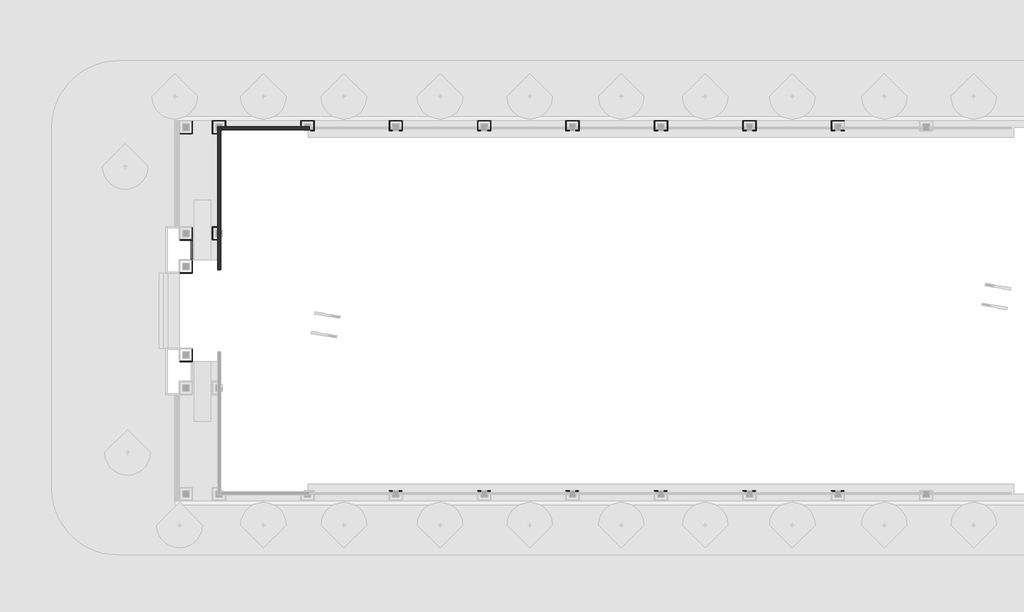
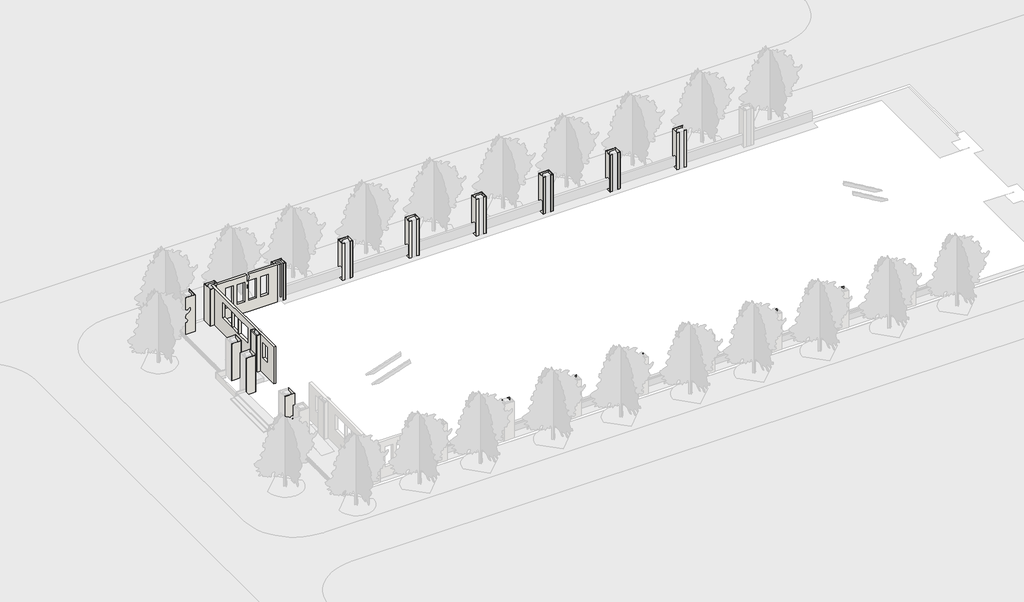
# One storey, part 2 of 5: 63 walls.
"""IFC4 building model written with IfcOpenShell, lengths in millimetres."""

from ifc_helpers import new_model, si_unit, frame, origin, place, context, project, spatial, polyline, outline, extrude, faceted_brep, element, save

model = new_model("IFC4")

# Units and contexts
model_context = context("Model", 3, world=origin())
ifc_project = project(units=[si_unit("LENGTHUNIT", "METRE", prefix="MILLI")], contexts=[model_context])

# Site, building, storey
site = spatial("IfcSite", under=ifc_project)
building = spatial("IfcBuilding", under=site)
storey = spatial("IfcBuildingStorey", under=building, Name="室外", Elevation=-450.0)

# Walls
placement = place(None, origin())
element("IfcWall", 1, ObjectType="教学楼 – 文化石外墙 – 200mm", at=placement, inside=storey, context=model_context, shape_type="Brep", body=[
    faceted_brep([(3167.0000002, 20300.0, -450.0), (3167.0000002, 23300.0, -450.0), (3167.0000002, 23900.0, -450.0), (3167.0000002, 32900.0, -450.0), (3167.0000002, 32982.6954639, -450.0), (3167.0000002, 33252.6954639, -450.0), (3167.0000002, 33252.6954639, 4200.0), (3167.0000002, 32982.6954639, 4200.0), (3167.0000002, 32900.0, 4200.0), (3167.0000002, 26716.2230983, 4200.0), (3167.0000002, 26482.2230983, 4200.0), (3167.0000002, 23900.0, 4200.0), (3167.0000002, 23516.723093, 4200.0), (3167.0000002, 23282.723093, 4200.0), (3167.0000002, 20900.0, 4200.0), (3167.0000002, 20300.0, 4200.0), (3167.0000002, 20300.0, 0.0), (3167.0000002, 27700.0, 1500.0), (3167.0000002, 27700.0, 3400.0), (3167.0000002, 28900.0, 3400.0), (3167.0000002, 28900.0, 1500.0), (3167.0000002, 21649.6954632, 1500.0), (3167.0000002, 21649.6954632, 3400.0), (3167.0000002, 22549.6954632, 3400.0), (3167.0000002, 22549.6954632, 1500.0), (3167.0000002, 25700.0, 1500.0), (3167.0000002, 25700.0, 3400.0), (3167.0000002, 27500.0, 3400.0), (3167.0000002, 27500.0, 1500.0), (3167.0000002, 30900.0, 1500.0), (3167.0000002, 29100.0, 1500.0), (3167.0000002, 29100.0, 3400.0), (3167.0000002, 30900.0, 3400.0), (2897.0000002, 20300.0, -450.0), (2897.0000002, 20300.0, 0.0), (2897.0000002, 20300.0, 4200.0), (2897.0000002, 20900.0, 4200.0), (2897.0000002, 23300.0, 4200.0), (2897.0000002, 23900.0, 4200.0), (2897.0000002, 32900.0, 4200.0), (2897.0000002, 33252.6954639, 4200.0), (2897.0000002, 33252.6954639, -450.0), (2897.0000002, 32900.0, -450.0), (2897.0000002, 23900.0, -450.0), (2897.0000002, 23300.0, -450.0), (2897.0000002, 27700.0, 1500.0), (2897.0000002, 28900.0, 1500.0), (2897.0000002, 28900.0, 3400.0), (2897.0000002, 27700.0, 3400.0), (2897.0000002, 21649.6954632, 1500.0), (2897.0000002, 22549.6954632, 1500.0), (2897.0000002, 22549.6954632, 3400.0), (2897.0000002, 21649.6954632, 3400.0), (2897.0000002, 25700.0, 1500.0), (2897.0000002, 27500.0, 1500.0), (2897.0000002, 27500.0, 3400.0), (2897.0000002, 25700.0, 3400.0), (2897.0000002, 30900.0, 1500.0), (2897.0000002, 30900.0, 3400.0), (2897.0000002, 29100.0, 3400.0), (2897.0000002, 29100.0, 1500.0)], [[[0, 1, 2, 3, 4, 5, 6, 7, 8, 9, 10, 11, 12, 13, 14, 15, 16], [17, 18, 19, 20], [21, 22, 23, 24], [25, 26, 27, 28], [29, 30, 31, 32]], [[33, 34, 35, 36, 37, 38, 39, 40, 41, 42, 43, 44], [45, 46, 47, 48], [49, 50, 51, 52], [53, 54, 55, 56], [57, 58, 59, 60]], [[5, 4, 3, 2, 1, 0, 33, 44, 43, 42, 41]], [[15, 14, 13, 12, 11, 10, 9, 8, 7, 6, 40, 39, 38, 37, 36, 35]], [[0, 16, 15, 35, 34, 33]], [[6, 5, 41, 40]], [[18, 17, 45, 48]], [[19, 18, 48, 47]], [[20, 19, 47, 46]], [[17, 20, 46, 45]], [[22, 21, 49, 52]], [[23, 22, 52, 51]], [[24, 23, 51, 50]], [[21, 24, 50, 49]], [[26, 25, 53, 56]], [[27, 26, 56, 55]], [[28, 27, 55, 54]], [[25, 28, 54, 53]], [[58, 57, 29, 32]], [[59, 58, 32, 31]], [[60, 59, 31, 30]], [[57, 60, 30, 29]]]),
])
element("IfcWall", 2, ObjectType="教学楼 – 文化石外墙 – 200mm", at=placement, inside=storey, context=model_context, shape_type="Brep", body=[
    faceted_brep([(3167.0000002, 32982.6954639, -450.0), (3300.0, 32982.6954639, -450.0), (10700.0, 32982.6954639, -450.0), (11153.0, 32982.6954639, -450.0), (11153.0, 32982.6954639, 0.0), (11153.0, 32982.6954639, 4200.0), (10883.0, 32982.6954639, 4200.0), (10700.0, 32982.6954639, 4200.0), (7017.0000003, 32982.6954639, 4200.0), (6783.0000003, 32982.6954639, 4200.0), (3300.0, 32982.6954639, 4200.0), (3167.0000002, 32982.6954639, 4200.0), (8660.0000003, 32982.6954639, 900.0), (8660.0000003, 32982.6954639, 3400.0), (9560.0000003, 32982.6954639, 3400.0), (9560.0000003, 32982.6954639, 900.0), (7259.9999978, 32982.6954639, 900.0), (7259.9999978, 32982.6954639, 3400.0), (8159.9999978, 32982.6954639, 3400.0), (8159.9999978, 32982.6954639, 900.0), (5860.0000003, 32982.6954639, 900.0), (5860.0000003, 32982.6954639, 3400.0), (6760.0000003, 32982.6954639, 3400.0), (6760.0000003, 32982.6954639, 900.0), (4460.0000003, 32982.6954639, 900.0), (4460.0000003, 32982.6954639, 3400.0), (5360.0000003, 32982.6954639, 3400.0), (5360.0000003, 32982.6954639, 900.0), (3167.0000002, 33252.6954639, -450.0), (3167.0000002, 33252.6954639, 4200.0), (3300.0, 33252.6954639, 4200.0), (10700.0, 33252.6954639, 4200.0), (11153.0, 33252.6954639, 4200.0), (11153.0, 33252.6954639, 0.0), (11153.0, 33252.6954639, -450.0), (10700.0, 33252.6954639, -450.0), (3300.0, 33252.6954639, -450.0), (8660.0000003, 33252.6954639, 900.0), (9560.0000003, 33252.6954639, 900.0), (9560.0000003, 33252.6954639, 3400.0), (8660.0000003, 33252.6954639, 3400.0), (7259.9999978, 33252.6954639, 900.0), (8159.9999978, 33252.6954639, 900.0), (8159.9999978, 33252.6954639, 3400.0), (7259.9999978, 33252.6954639, 3400.0), (5860.0000003, 33252.6954639, 900.0), (6760.0000003, 33252.6954639, 900.0), (6760.0000003, 33252.6954639, 3400.0), (5860.0000003, 33252.6954639, 3400.0), (4460.0000003, 33252.6954639, 900.0), (5360.0000003, 33252.6954639, 900.0), (5360.0000003, 33252.6954639, 3400.0), (4460.0000003, 33252.6954639, 3400.0)], [[[0, 1, 2, 3, 4, 5, 6, 7, 8, 9, 10, 11], [12, 13, 14, 15], [16, 17, 18, 19], [20, 21, 22, 23], [24, 25, 26, 27]], [[28, 29, 30, 31, 32, 33, 34, 35, 36], [37, 38, 39, 40], [41, 42, 43, 44], [45, 46, 47, 48], [49, 50, 51, 52]], [[3, 2, 1, 0, 28, 36, 35, 34]], [[11, 10, 9, 8, 7, 6, 5, 32, 31, 30, 29]], [[0, 11, 29, 28]], [[5, 4, 3, 34, 33, 32]], [[13, 12, 37, 40]], [[14, 13, 40, 39]], [[15, 14, 39, 38]], [[12, 15, 38, 37]], [[17, 16, 41, 44]], [[18, 17, 44, 43]], [[19, 18, 43, 42]], [[16, 19, 42, 41]], [[21, 20, 45, 48]], [[22, 21, 48, 47]], [[23, 22, 47, 46]], [[20, 23, 46, 45]], [[25, 24, 49, 52]], [[26, 25, 52, 51]], [[27, 26, 51, 50]], [[24, 27, 50, 49]]]),
])
element("IfcWall", 3, ObjectType="教学楼 – 干挂石材 – 30mm", at=placement, inside=storey, context=model_context, shape_type="Brep", body=[
    faceted_brep([(600.0, 32629.3961574, -450.0), (570.0, 32629.3961574, -450.0), (-570.0000001, 32629.3961574, -450.0), (-570.0000001, 32629.3961574, 4200.0), (570.0, 32629.3961574, 4200.0), (600.0, 32629.3961574, 4200.0), (600.0, 32599.3961574, -450.0), (600.0, 32599.3961574, 4200.0), (-570.0000001, 32599.3961574, 4200.0), (-570.0000001, 32599.3961574, -450.0)], [[[0, 1, 2, 3, 4, 5]], [[6, 7, 8, 9]], [[2, 1, 0, 6, 9]], [[5, 4, 3, 8, 7]], [[0, 5, 7, 6]], [[3, 2, 9, 8]]]),
])
element("IfcWall", 4, ObjectType="教学楼 – 干挂石材 – 30mm", at=placement, inside=storey, context=model_context, shape_type="Brep", body=[
    faceted_brep([(570.0, 33799.3961574, -450.0), (570.0, 33769.3961574, -450.0), (570.0, 32629.3961574, -450.0), (570.0, 32629.3961574, 4200.0), (570.0, 33769.3961574, 4200.0), (570.0, 33799.3961574, 4200.0), (600.0, 33799.3961574, -450.0), (600.0, 33799.3961574, 4200.0), (600.0, 32629.3961574, 4200.0), (600.0, 32629.3961574, -450.0)], [[[0, 1, 2, 3, 4, 5]], [[6, 7, 8, 9]], [[2, 1, 0, 6, 9]], [[5, 4, 3, 8, 7]], [[0, 5, 7, 6]], [[3, 2, 9, 8]]]),
])
element("IfcWall", 5, ObjectType="教学楼 – 干挂石材 – 30mm", at=placement, inside=storey, context=model_context, shape_type="Brep", body=[
    faceted_brep([(2897.0000002, 32629.6954638, -450.0), (2430.0000001, 32629.6954638, -450.0), (2400.0000001, 32629.6954638, -450.0), (2400.0000001, 32629.6954638, 4200.0), (2430.0000001, 32629.6954638, 4200.0), (2897.0000002, 32629.6954638, 4200.0), (2897.0000002, 32599.6954638, -450.0), (2897.0000002, 32599.6954638, 4200.0), (2400.0000001, 32599.6954638, 4200.0), (2400.0000001, 32599.6954638, -450.0)], [[[0, 1, 2, 3, 4, 5]], [[6, 7, 8, 9]], [[2, 1, 0, 6, 9]], [[5, 4, 3, 8, 7]], [[0, 5, 7, 6]], [[3, 2, 9, 8]]]),
])
element("IfcWall", 6, ObjectType="教学楼 – 干挂石材 – 30mm", at=placement, inside=storey, context=model_context, shape_type="Brep", body=[
    faceted_brep([(2430.0000001, 32629.6954638, -450.0), (2430.0000001, 33769.6954638, -450.0), (2430.0000001, 33799.6954638, -450.0), (2430.0000001, 33799.6954638, 4200.0), (2430.0000001, 33769.6954638, 4200.0), (2430.0000001, 32629.6954638, 4200.0), (2400.0000001, 32629.6954638, -450.0), (2400.0000001, 32629.6954638, 4200.0), (2400.0000001, 33799.6954638, 4200.0), (2400.0000001, 33799.6954638, -450.0)], [[[0, 1, 2, 3, 4, 5]], [[6, 7, 8, 9]], [[2, 1, 0, 6, 9]], [[5, 4, 3, 8, 7]], [[0, 5, 7, 6]], [[3, 2, 9, 8]]]),
])
element("IfcWall", 7, ObjectType="教学楼 – 干挂石材 – 30mm", at=placement, inside=storey, context=model_context, shape_type="Brep", body=[
    faceted_brep([(2430.0000001, 33769.6954638, -450.0), (3570.0000001, 33769.6954638, -450.0), (3600.0000001, 33769.6954638, -450.0), (3600.0000001, 33769.6954638, 4200.0), (3570.0000001, 33769.6954638, 4200.0), (2430.0000001, 33769.6954638, 4200.0), (2430.0000001, 33799.6954638, -450.0), (2430.0000001, 33799.6954638, 4200.0), (3600.0000001, 33799.6954638, 4200.0), (3600.0000001, 33799.6954638, -450.0)], [[[0, 1, 2, 3, 4, 5]], [[6, 7, 8, 9]], [[2, 1, 0, 6, 9]], [[5, 4, 3, 8, 7]], [[0, 5, 7, 6]], [[3, 2, 9, 8]]]),
])
element("IfcWall", 8, ObjectType="教学楼 – 干挂石材 – 30mm", at=placement, inside=storey, context=model_context, shape_type="SweptSolid", body=[
    extrude(outline(polyline([(3570.0000001, 33252.6954639), (3570.0000001, 33769.6954638), (3600.0000001, 33769.6954638), (3600.0000001, 33252.6954639), (3570.0000001, 33252.6954639)])), frame((0.0, 0.0, -450.0), z_axis=(0.0, 0.0, 1.0), x_axis=(1.0, 0.0, 0.0)), (0.0, 0.0, 1.0), 4650.0),
])
element("IfcWall", 9, ObjectType="教学楼 – 干挂石材 – 30mm", at=placement, inside=storey, context=model_context, shape_type="Brep", body=[
    faceted_brep([(600.0, 23029.3961574, 4200.0), (600.0, 23029.3961574, -450.0), (570.0, 23029.3961574, -450.0), (-570.0000001, 23029.3961574, -450.0), (-570.0000001, 23029.3961574, 4200.0), (570.0, 23029.3961574, 4200.0), (600.0, 22999.3961574, -450.0), (600.0, 22999.3961574, 300.0), (600.0, 22999.3961574, 4200.0), (-570.0000001, 22999.3961574, 4200.0), (-570.0000001, 22999.3961574, -450.0), (500.0, 22999.3961574, -450.0)], [[[0, 1, 2, 3, 4, 5]], [[6, 7, 8, 9, 10, 11]], [[3, 2, 1, 6, 11, 10]], [[0, 5, 4, 9, 8]], [[4, 3, 10, 9]], [[0, 8, 7, 6, 1]]]),
])
element("IfcWall", 10, ObjectType="教学楼 – 干挂石材 – 30mm", at=placement, inside=storey, context=model_context, shape_type="Brep", body=[
    faceted_brep([(570.0, 24199.3961574, -450.0), (570.0, 24169.3961574, -450.0), (570.0, 23029.3961574, -450.0), (570.0, 23029.3961574, 4200.0), (570.0, 24169.3961574, 4200.0), (570.0, 24199.3961574, 4200.0), (600.0, 24199.3961574, -450.0), (600.0, 24199.3961574, 4200.0), (600.0, 23029.3961574, 4200.0), (600.0, 23029.3961574, -450.0)], [[[0, 1, 2, 3, 4, 5]], [[6, 7, 8, 9]], [[2, 1, 0, 6, 9]], [[5, 4, 3, 8, 7]], [[0, 5, 7, 6]], [[2, 9, 8, 3]]]),
])
element("IfcWall", 11, ObjectType="教学楼 – 干挂石材 – 30mm", at=placement, inside=storey, context=model_context, shape_type="Brep", body=[
    faceted_brep([(10430.0000009, 33252.6954639, -450.0), (10430.0000009, 33769.6402082, -450.0), (10430.0000009, 33799.6402082, -450.0), (10430.0000009, 33799.6402082, 4200.0), (10430.0000009, 33769.6402082, 4200.0), (10430.0000009, 33252.6954639, 4200.0), (10400.0000009, 33252.6954639, -450.0), (10400.0000009, 33252.6954639, 4200.0), (10400.0000009, 33799.6402082, 4200.0), (10400.0000009, 33799.6402082, -450.0)], [[[0, 1, 2, 3, 4, 5]], [[6, 7, 8, 9]], [[2, 1, 0, 6, 9]], [[5, 4, 3, 8, 7]], [[0, 5, 7, 6]], [[3, 2, 9, 8]]]),
])
element("IfcWall", 12, ObjectType="教学楼 – 干挂石材 – 30mm", at=placement, inside=storey, context=model_context, shape_type="Brep", body=[
    faceted_brep([(10430.0000009, 33769.6402082, -450.0), (11569.9999999, 33769.6402082, -450.0), (11599.9999999, 33769.6402082, -450.0), (11599.9999999, 33769.6402082, 4200.0), (11569.9999999, 33769.6402082, 4200.0), (10430.0000009, 33769.6402082, 4200.0), (10430.0000009, 33799.6402082, -450.0), (10430.0000009, 33799.6402082, 4200.0), (11599.9999999, 33799.6402082, 4200.0), (11599.9999999, 33799.6402082, -450.0)], [[[0, 1, 2, 3, 4, 5]], [[6, 7, 8, 9]], [[2, 1, 0, 6, 9]], [[5, 4, 3, 8, 7]], [[0, 5, 7, 6]], [[3, 2, 9, 8]]]),
])
element("IfcWall", 13, ObjectType="教学楼 – 干挂石材 – 30mm", at=placement, inside=storey, context=model_context, shape_type="Brep", body=[
    faceted_brep([(11569.9999999, 33769.6402082, -450.0), (11569.9999999, 32929.640208, -450.0), (11569.9999999, 32899.640208, -450.0), (11569.9999999, 32899.640208, 4200.0), (11569.9999999, 32929.640208, 4200.0), (11569.9999999, 33769.6402082, 4200.0), (11599.9999999, 33769.6402082, -450.0), (11599.9999999, 33769.6402082, 4200.0), (11599.9999999, 32899.640208, 4200.0), (11599.9999999, 32899.640208, -450.0)], [[[0, 1, 2, 3, 4, 5]], [[6, 7, 8, 9]], [[2, 1, 0, 6, 9]], [[5, 4, 3, 8, 7]], [[0, 5, 7, 6]], [[3, 2, 9, 8]]]),
])
element("IfcWall", 14, ObjectType="教学楼 – 干挂石材 – 30mm", at=placement, inside=storey, context=model_context, shape_type="Brep", body=[
    faceted_brep([(11569.9999999, 32929.640208, -450.0), (11300.0, 32929.640208, -450.0), (11300.0, 32929.640208, 4200.0), (11569.9999999, 32929.640208, 4200.0), (11569.9999999, 32899.640208, -450.0), (11569.9999999, 32899.640208, 4200.0), (11300.0, 32899.640208, 4200.0), (11300.0, 32899.640208, -450.0), (11300.0, 32900.0, -450.0), (11300.0, 32900.0, 4200.0)], [[[0, 1, 2, 3]], [[4, 5, 6, 7]], [[1, 0, 4, 7, 8]], [[2, 1, 8, 7, 6, 9]], [[3, 2, 9, 6, 5]], [[0, 3, 5, 4]]]),
])
element("IfcWall", 15, ObjectType="教学楼 – 干挂石材 – 30mm", at=placement, inside=storey, context=model_context, shape_type="Brep", body=[
    faceted_brep([(18700.0, 32929.640208, -450.0), (18430.0000009, 32929.640208, -450.0), (18400.0000009, 32929.640208, -450.0), (18400.0000009, 32929.640208, 4200.0), (18430.0000009, 32929.640208, 4200.0), (18700.0, 32929.640208, 4200.0), (18700.0, 32899.640208, -450.0), (18700.0, 32899.640208, 4200.0), (18400.0000009, 32899.640208, 4200.0), (18400.0000009, 32899.640208, -450.0), (18700.0, 32900.0, -450.0), (18700.0, 32900.0, 4200.0)], [[[0, 1, 2, 3, 4, 5]], [[6, 7, 8, 9]], [[2, 1, 0, 10, 6, 9]], [[5, 4, 3, 8, 7, 11]], [[0, 5, 11, 7, 6, 10]], [[3, 2, 9, 8]]]),
])
element("IfcWall", 16, ObjectType="教学楼 – 干挂石材 – 30mm", at=placement, inside=storey, context=model_context, shape_type="Brep", body=[
    faceted_brep([(18430.0000009, 32929.640208, -450.0), (18430.0000009, 33769.6402082, -450.0), (18430.0000009, 33799.6402082, -450.0), (18430.0000009, 33799.6402082, 4200.0), (18430.0000009, 33769.6402082, 4200.0), (18430.0000009, 32929.640208, 4200.0), (18400.0000009, 32929.640208, -450.0), (18400.0000009, 32929.640208, 4200.0), (18400.0000009, 33799.6402082, 4200.0), (18400.0000009, 33799.6402082, -450.0)], [[[0, 1, 2, 3, 4, 5]], [[6, 7, 8, 9]], [[2, 1, 0, 6, 9]], [[5, 4, 3, 8, 7]], [[0, 5, 7, 6]], [[3, 2, 9, 8]]]),
])
element("IfcWall", 17, ObjectType="教学楼 – 干挂石材 – 30mm", at=placement, inside=storey, context=model_context, shape_type="Brep", body=[
    faceted_brep([(18430.0000009, 33769.6402082, -450.0), (19569.9999999, 33769.6402082, -450.0), (19599.9999999, 33769.6402082, -450.0), (19599.9999999, 33769.6402082, 4200.0), (19569.9999999, 33769.6402082, 4200.0), (18430.0000009, 33769.6402082, 4200.0), (18430.0000009, 33799.6402082, -450.0), (18430.0000009, 33799.6402082, 4200.0), (19599.9999999, 33799.6402082, 4200.0), (19599.9999999, 33799.6402082, -450.0)], [[[0, 1, 2, 3, 4, 5]], [[6, 7, 8, 9]], [[2, 1, 0, 6, 9]], [[5, 4, 3, 8, 7]], [[0, 5, 7, 6]], [[3, 2, 9, 8]]]),
])
element("IfcWall", 18, ObjectType="教学楼 – 干挂石材 – 30mm", at=placement, inside=storey, context=model_context, shape_type="Brep", body=[
    faceted_brep([(19569.9999999, 33769.6402082, -450.0), (19569.9999999, 32929.640208, -450.0), (19569.9999999, 32899.640208, -450.0), (19569.9999999, 32899.640208, 4200.0), (19569.9999999, 32929.640208, 4200.0), (19569.9999999, 33769.6402082, 4200.0), (19599.9999999, 33769.6402082, -450.0), (19599.9999999, 33769.6402082, 4200.0), (19599.9999999, 32899.640208, 4200.0), (19599.9999999, 32899.640208, -450.0)], [[[0, 1, 2, 3, 4, 5]], [[6, 7, 8, 9]], [[2, 1, 0, 6, 9]], [[5, 4, 3, 8, 7]], [[0, 5, 7, 6]], [[3, 2, 9, 8]]]),
])
element("IfcWall", 19, ObjectType="教学楼 – 干挂石材 – 30mm", at=placement, inside=storey, context=model_context, shape_type="Brep", body=[
    faceted_brep([(19569.9999999, 32929.640208, -450.0), (19300.0, 32929.640208, -450.0), (19300.0, 32929.640208, 4200.0), (19569.9999999, 32929.640208, 4200.0), (19569.9999999, 32899.640208, -450.0), (19569.9999999, 32899.640208, 4200.0), (19300.0, 32899.640208, 4200.0), (19300.0, 32899.640208, -450.0), (19300.0, 32900.0, -450.0), (19300.0, 32900.0, 4200.0)], [[[0, 1, 2, 3]], [[4, 5, 6, 7]], [[1, 0, 4, 7, 8]], [[2, 1, 8, 7, 6, 9]], [[3, 2, 9, 6, 5]], [[0, 3, 5, 4]]]),
])
element("IfcWall", 20, ObjectType="教学楼 – 干挂石材 – 30mm", at=placement, inside=storey, context=model_context, shape_type="Brep", body=[
    faceted_brep([(2897.0000005, 24199.6954638, -450.0), (2399.9999999, 24199.6954638, -450.0), (2399.9999999, 24199.6954638, 4200.0), (2897.0000005, 24199.6954638, 4200.0), (2897.0000005, 24169.6954638, -450.0), (2897.0000005, 24169.6954638, 4200.0), (2429.9999999, 24169.6954638, 4200.0), (2399.9999999, 24169.6954638, 4200.0), (2399.9999999, 24169.6954638, -450.0), (2429.9999999, 24169.6954638, -450.0)], [[[0, 1, 2, 3]], [[4, 5, 6, 7, 8, 9]], [[1, 0, 4, 9, 8]], [[3, 2, 7, 6, 5]], [[0, 3, 5, 4]], [[2, 1, 8, 7]]]),
])
element("IfcWall", 21, ObjectType="教学楼 – 干挂石材 – 30mm", at=placement, inside=storey, context=model_context, shape_type="Brep", body=[
    faceted_brep([(2399.9999999, 24169.6954638, -450.0), (2399.9999999, 22999.6954638, -450.0), (2399.9999999, 22999.6954638, 4200.0), (2399.9999999, 24169.6954638, 4200.0), (2429.9999999, 24169.6954638, -450.0), (2429.9999999, 24169.6954638, 4200.0), (2429.9999999, 23029.6954638, 4200.0), (2429.9999999, 22999.6954638, 4200.0), (2429.9999999, 22999.6954638, -450.0), (2429.9999999, 23029.6954638, -450.0)], [[[0, 1, 2, 3]], [[4, 5, 6, 7, 8, 9]], [[1, 0, 4, 9, 8]], [[3, 2, 7, 6, 5]], [[0, 3, 5, 4]], [[2, 1, 8, 7]]]),
])
element("IfcWall", 22, ObjectType="教学楼 – 干挂石材 – 30mm", at=placement, inside=storey, context=model_context, shape_type="SweptSolid", body=[
    extrude(outline(polyline([(2897.0000005, 22999.6954638), (2429.9999999, 22999.6954638), (2429.9999999, 23029.6954638), (2897.0000005, 23029.6954638), (2897.0000005, 22999.6954638)])), frame((0.0, 0.0, -450.0), z_axis=(0.0, 0.0, 1.0), x_axis=(1.0, 0.0, 0.0)), (0.0, 0.0, 1.0), 4650.0),
])
element("IfcWall", 23, ObjectType="教学楼 – 干挂石材 – 30mm", at=placement, inside=storey, context=model_context, shape_type="Brep", body=[
    faceted_brep([(600.0, 20029.7006935, -450.0), (570.0, 20029.7006935, -450.0), (-570.0000001, 20029.7006935, -450.0), (-570.0000001, 20029.7006935, 4200.0), (570.0, 20029.7006935, 4200.0), (600.0, 20029.7006935, 4200.0), (600.0, 19999.7006935, -450.0), (600.0, 19999.7006935, 4200.0), (-570.0000001, 19999.7006935, 4200.0), (-570.0000001, 19999.7006935, -450.0)], [[[0, 1, 2, 3, 4, 5]], [[6, 7, 8, 9]], [[2, 1, 0, 6, 9]], [[5, 4, 3, 8, 7]], [[0, 5, 7, 6]], [[2, 9, 8, 3]]]),
])
element("IfcWall", 24, ObjectType="教学楼 – 干挂石材 – 30mm", at=placement, inside=storey, context=model_context, shape_type="Brep", body=[
    faceted_brep([(570.0, 21199.7006935, 4200.0), (570.0, 21199.7006935, -450.0), (570.0, 21169.7006935, -450.0), (570.0, 20029.7006935, -450.0), (570.0, 20029.7006935, 4200.0), (570.0, 21169.7006935, 4200.0), (600.0, 21199.7006935, -450.0), (600.0, 21199.7006935, 300.0), (600.0, 21199.7006935, 4200.0), (600.0, 20029.7006935, 4200.0), (600.0, 20029.7006935, -450.0)], [[[0, 1, 2, 3, 4, 5]], [[6, 7, 8, 9, 10]], [[3, 2, 1, 6, 10]], [[0, 5, 4, 9, 8]], [[4, 3, 10, 9]], [[0, 8, 7, 6, 1]]]),
])
element("IfcWall", 25, ObjectType="教学楼 – 干挂石材 – 30mm", at=placement, inside=storey, context=model_context, shape_type="Brep", body=[
    faceted_brep([(600.0, 12029.3961574, 4200.0), (600.0, 12029.3961574, -450.0), (570.0, 12029.3961574, -450.0), (-570.0000001, 12029.3961574, -450.0), (-570.0000001, 12029.3961574, 4200.0), (570.0, 12029.3961574, 4200.0), (600.0, 11999.3961574, -450.0), (600.0, 11999.3961574, 300.0), (600.0, 11999.3961574, 4200.0), (-570.0000001, 11999.3961574, 4200.0), (-570.0000001, 11999.3961574, -450.0), (500.0, 11999.3961574, -450.0)], [[[0, 1, 2, 3, 4, 5]], [[6, 7, 8, 9, 10, 11]], [[3, 2, 1, 6, 11, 10]], [[0, 5, 4, 9, 8]], [[4, 3, 10, 9]], [[0, 8, 7, 6, 1]]]),
])
element("IfcWall", 26, ObjectType="教学楼 – 干挂石材 – 30mm", at=placement, inside=storey, context=model_context, shape_type="Brep", body=[
    faceted_brep([(570.0, 13199.3961574, -450.0), (570.0, 13169.3961574, -450.0), (570.0, 12029.3961574, -450.0), (570.0, 12029.3961574, 4200.0), (570.0, 13169.3961574, 4200.0), (570.0, 13199.3961574, 4200.0), (600.0, 13199.3961574, -450.0), (600.0, 13199.3961574, 4200.0), (600.0, 12029.3961574, 4200.0), (600.0, 12029.3961574, -450.0)], [[[0, 1, 2, 3, 4, 5]], [[6, 7, 8, 9]], [[2, 1, 0, 6, 9]], [[5, 4, 3, 8, 7]], [[0, 5, 7, 6]], [[2, 9, 8, 3]]]),
])
element("IfcWall", 27, ObjectType="教学楼 – 干挂石材 – 30mm", at=placement, inside=storey, context=model_context, shape_type="Brep", body=[
    faceted_brep([(26700.0, 32929.640208, -450.0), (26430.0000009, 32929.640208, -450.0), (26400.0000009, 32929.640208, -450.0), (26400.0000009, 32929.640208, 4200.0), (26430.0000009, 32929.640208, 4200.0), (26700.0, 32929.640208, 4200.0), (26700.0, 32899.640208, -450.0), (26700.0, 32899.640208, 4200.0), (26400.0000009, 32899.640208, 4200.0), (26400.0000009, 32899.640208, -450.0), (26700.0, 32900.0, -450.0), (26700.0, 32900.0, 4200.0)], [[[0, 1, 2, 3, 4, 5]], [[6, 7, 8, 9]], [[2, 1, 0, 10, 6, 9]], [[5, 4, 3, 8, 7, 11]], [[0, 5, 11, 7, 6, 10]], [[3, 2, 9, 8]]]),
])
element("IfcWall", 28, ObjectType="教学楼 – 干挂石材 – 30mm", at=placement, inside=storey, context=model_context, shape_type="Brep", body=[
    faceted_brep([(26430.0000009, 32929.640208, -450.0), (26430.0000009, 33769.6402082, -450.0), (26430.0000009, 33799.6402082, -450.0), (26430.0000009, 33799.6402082, 4200.0), (26430.0000009, 33769.6402082, 4200.0), (26430.0000009, 32929.640208, 4200.0), (26400.0000009, 32929.640208, -450.0), (26400.0000009, 32929.640208, 4200.0), (26400.0000009, 33799.6402082, 4200.0), (26400.0000009, 33799.6402082, -450.0)], [[[0, 1, 2, 3, 4, 5]], [[6, 7, 8, 9]], [[2, 1, 0, 6, 9]], [[5, 4, 3, 8, 7]], [[0, 5, 7, 6]], [[3, 2, 9, 8]]]),
])
element("IfcWall", 29, ObjectType="教学楼 – 干挂石材 – 30mm", at=placement, inside=storey, context=model_context, shape_type="Brep", body=[
    faceted_brep([(26430.0000009, 33769.6402082, -450.0), (27569.9999999, 33769.6402082, -450.0), (27599.9999999, 33769.6402082, -450.0), (27599.9999999, 33769.6402082, 4200.0), (27569.9999999, 33769.6402082, 4200.0), (26430.0000009, 33769.6402082, 4200.0), (26430.0000009, 33799.6402082, -450.0), (26430.0000009, 33799.6402082, 4200.0), (27599.9999999, 33799.6402082, 4200.0), (27599.9999999, 33799.6402082, -450.0)], [[[0, 1, 2, 3, 4, 5]], [[6, 7, 8, 9]], [[2, 1, 0, 6, 9]], [[5, 4, 3, 8, 7]], [[0, 5, 7, 6]], [[3, 2, 9, 8]]]),
])
element("IfcWall", 30, ObjectType="教学楼 – 干挂石材 – 30mm", at=placement, inside=storey, context=model_context, shape_type="Brep", body=[
    faceted_brep([(27569.9999999, 33769.6402082, -450.0), (27569.9999999, 32929.640208, -450.0), (27569.9999999, 32899.640208, -450.0), (27569.9999999, 32899.640208, 4200.0), (27569.9999999, 32929.640208, 4200.0), (27569.9999999, 33769.6402082, 4200.0), (27599.9999999, 33769.6402082, -450.0), (27599.9999999, 33769.6402082, 4200.0), (27599.9999999, 32899.640208, 4200.0), (27599.9999999, 32899.640208, -450.0)], [[[0, 1, 2, 3, 4, 5]], [[6, 7, 8, 9]], [[2, 1, 0, 6, 9]], [[5, 4, 3, 8, 7]], [[0, 5, 7, 6]], [[3, 2, 9, 8]]]),
])
element("IfcWall", 31, ObjectType="教学楼 – 干挂石材 – 30mm", at=placement, inside=storey, context=model_context, shape_type="Brep", body=[
    faceted_brep([(27569.9999999, 32929.640208, -450.0), (27300.0, 32929.640208, -450.0), (27300.0, 32929.640208, 4200.0), (27569.9999999, 32929.640208, 4200.0), (27569.9999999, 32899.640208, -450.0), (27569.9999999, 32899.640208, 4200.0), (27300.0, 32899.640208, 4200.0), (27300.0, 32899.640208, -450.0), (27300.0, 32900.0, -450.0), (27300.0, 32900.0, 4200.0)], [[[0, 1, 2, 3]], [[4, 5, 6, 7]], [[1, 0, 4, 7, 8]], [[2, 1, 8, 7, 6, 9]], [[3, 2, 9, 6, 5]], [[0, 3, 5, 4]]]),
])
element("IfcWall", 32, ObjectType="教学楼 – 干挂石材 – 30mm", at=placement, inside=storey, context=model_context, shape_type="Brep", body=[
    faceted_brep([(34700.0, 32929.640208, -450.0), (34430.0000009, 32929.640208, -450.0), (34400.0000009, 32929.640208, -450.0), (34400.0000009, 32929.640208, 4200.0), (34430.0000009, 32929.640208, 4200.0), (34700.0, 32929.640208, 4200.0), (34700.0, 32899.640208, -450.0), (34700.0, 32899.640208, 4200.0), (34400.0000009, 32899.640208, 4200.0), (34400.0000009, 32899.640208, -450.0), (34700.0, 32900.0, -450.0), (34700.0, 32900.0, 4200.0)], [[[0, 1, 2, 3, 4, 5]], [[6, 7, 8, 9]], [[2, 1, 0, 10, 6, 9]], [[5, 4, 3, 8, 7, 11]], [[0, 5, 11, 7, 6, 10]], [[3, 2, 9, 8]]]),
])
element("IfcWall", 33, ObjectType="教学楼 – 干挂石材 – 30mm", at=placement, inside=storey, context=model_context, shape_type="Brep", body=[
    faceted_brep([(34430.0000009, 32929.640208, -450.0), (34430.0000009, 33769.6402082, -450.0), (34430.0000009, 33799.6402082, -450.0), (34430.0000009, 33799.6402082, 4200.0), (34430.0000009, 33769.6402082, 4200.0), (34430.0000009, 32929.640208, 4200.0), (34400.0000009, 32929.640208, -450.0), (34400.0000009, 32929.640208, 4200.0), (34400.0000009, 33799.6402082, 4200.0), (34400.0000009, 33799.6402082, -450.0)], [[[0, 1, 2, 3, 4, 5]], [[6, 7, 8, 9]], [[2, 1, 0, 6, 9]], [[5, 4, 3, 8, 7]], [[0, 5, 7, 6]], [[3, 2, 9, 8]]]),
])
element("IfcWall", 34, ObjectType="教学楼 – 干挂石材 – 30mm", at=placement, inside=storey, context=model_context, shape_type="Brep", body=[
    faceted_brep([(34430.0000009, 33769.6402082, -450.0), (35569.9999999, 33769.6402082, -450.0), (35599.9999999, 33769.6402082, -450.0), (35599.9999999, 33769.6402082, 4200.0), (35569.9999999, 33769.6402082, 4200.0), (34430.0000009, 33769.6402082, 4200.0), (34430.0000009, 33799.6402082, -450.0), (34430.0000009, 33799.6402082, 4200.0), (35599.9999999, 33799.6402082, 4200.0), (35599.9999999, 33799.6402082, -450.0)], [[[0, 1, 2, 3, 4, 5]], [[6, 7, 8, 9]], [[2, 1, 0, 6, 9]], [[5, 4, 3, 8, 7]], [[0, 5, 7, 6]], [[3, 2, 9, 8]]]),
])
element("IfcWall", 35, ObjectType="教学楼 – 干挂石材 – 30mm", at=placement, inside=storey, context=model_context, shape_type="Brep", body=[
    faceted_brep([(35569.9999999, 33769.6402082, -450.0), (35569.9999999, 32929.640208, -450.0), (35569.9999999, 32899.640208, -450.0), (35569.9999999, 32899.640208, 4200.0), (35569.9999999, 32929.640208, 4200.0), (35569.9999999, 33769.6402082, 4200.0), (35599.9999999, 33769.6402082, -450.0), (35599.9999999, 33769.6402082, 4200.0), (35599.9999999, 32899.640208, 4200.0), (35599.9999999, 32899.640208, -450.0)], [[[0, 1, 2, 3, 4, 5]], [[6, 7, 8, 9]], [[2, 1, 0, 6, 9]], [[5, 4, 3, 8, 7]], [[0, 5, 7, 6]], [[3, 2, 9, 8]]]),
])
element("IfcWall", 36, ObjectType="教学楼 – 干挂石材 – 30mm", at=placement, inside=storey, context=model_context, shape_type="Brep", body=[
    faceted_brep([(35569.9999999, 32929.640208, -450.0), (35300.0, 32929.640208, -450.0), (35300.0, 32929.640208, 4200.0), (35569.9999999, 32929.640208, 4200.0), (35569.9999999, 32899.640208, -450.0), (35569.9999999, 32899.640208, 4200.0), (35300.0, 32899.640208, 4200.0), (35300.0, 32899.640208, -450.0), (35300.0, 32900.0, -450.0), (35300.0, 32900.0, 4200.0)], [[[0, 1, 2, 3]], [[4, 5, 6, 7]], [[1, 0, 4, 7, 8]], [[2, 1, 8, 7, 6, 9]], [[3, 2, 9, 6, 5]], [[0, 3, 5, 4]]]),
])
element("IfcWall", 37, ObjectType="教学楼 – 干挂石材 – 30mm", at=placement, inside=storey, context=model_context, shape_type="Brep", body=[
    faceted_brep([(42700.0, 32929.640208, -450.0), (42430.0000009, 32929.640208, -450.0), (42400.0000009, 32929.640208, -450.0), (42400.0000009, 32929.640208, 4200.0), (42430.0000009, 32929.640208, 4200.0), (42700.0, 32929.640208, 4200.0), (42700.0, 32899.640208, -450.0), (42700.0, 32899.640208, 4200.0), (42400.0000009, 32899.640208, 4200.0), (42400.0000009, 32899.640208, -450.0), (42700.0, 32900.0, -450.0), (42700.0, 32900.0, 4200.0)], [[[0, 1, 2, 3, 4, 5]], [[6, 7, 8, 9]], [[2, 1, 0, 10, 6, 9]], [[5, 4, 3, 8, 7, 11]], [[0, 5, 11, 7, 6, 10]], [[3, 2, 9, 8]]]),
])
element("IfcWall", 38, ObjectType="教学楼 – 干挂石材 – 30mm", at=placement, inside=storey, context=model_context, shape_type="Brep", body=[
    faceted_brep([(42430.0000009, 32929.640208, -450.0), (42430.0000009, 33769.6402082, -450.0), (42430.0000009, 33799.6402082, -450.0), (42430.0000009, 33799.6402082, 4200.0), (42430.0000009, 33769.6402082, 4200.0), (42430.0000009, 32929.640208, 4200.0), (42400.0000009, 32929.640208, -450.0), (42400.0000009, 32929.640208, 4200.0), (42400.0000009, 33799.6402082, 4200.0), (42400.0000009, 33799.6402082, -450.0)], [[[0, 1, 2, 3, 4, 5]], [[6, 7, 8, 9]], [[2, 1, 0, 6, 9]], [[5, 4, 3, 8, 7]], [[0, 5, 7, 6]], [[3, 2, 9, 8]]]),
])
element("IfcWall", 39, ObjectType="教学楼 – 干挂石材 – 30mm", at=placement, inside=storey, context=model_context, shape_type="Brep", body=[
    faceted_brep([(42430.0000009, 33769.6402082, -450.0), (43569.9999999, 33769.6402082, -450.0), (43599.9999999, 33769.6402082, -450.0), (43599.9999999, 33769.6402082, 4200.0), (43569.9999999, 33769.6402082, 4200.0), (42430.0000009, 33769.6402082, 4200.0), (42430.0000009, 33799.6402082, -450.0), (42430.0000009, 33799.6402082, 4200.0), (43599.9999999, 33799.6402082, 4200.0), (43599.9999999, 33799.6402082, -450.0)], [[[0, 1, 2, 3, 4, 5]], [[6, 7, 8, 9]], [[2, 1, 0, 6, 9]], [[5, 4, 3, 8, 7]], [[0, 5, 7, 6]], [[3, 2, 9, 8]]]),
])
element("IfcWall", 40, ObjectType="教学楼 – 干挂石材 – 30mm", at=placement, inside=storey, context=model_context, shape_type="Brep", body=[
    faceted_brep([(43569.9999999, 33769.6402082, -450.0), (43569.9999999, 32929.640208, -450.0), (43569.9999999, 32899.640208, -450.0), (43569.9999999, 32899.640208, 4200.0), (43569.9999999, 32929.640208, 4200.0), (43569.9999999, 33769.6402082, 4200.0), (43599.9999999, 33769.6402082, -450.0), (43599.9999999, 33769.6402082, 4200.0), (43599.9999999, 32899.640208, 4200.0), (43599.9999999, 32899.640208, -450.0)], [[[0, 1, 2, 3, 4, 5]], [[6, 7, 8, 9]], [[2, 1, 0, 6, 9]], [[5, 4, 3, 8, 7]], [[0, 5, 7, 6]], [[3, 2, 9, 8]]]),
])
element("IfcWall", 41, ObjectType="教学楼 – 干挂石材 – 30mm", at=placement, inside=storey, context=model_context, shape_type="Brep", body=[
    faceted_brep([(43569.9999999, 32929.640208, -450.0), (43300.0, 32929.640208, -450.0), (43300.0, 32929.640208, 4200.0), (43569.9999999, 32929.640208, 4200.0), (43569.9999999, 32899.640208, -450.0), (43569.9999999, 32899.640208, 4200.0), (43300.0, 32899.640208, 4200.0), (43300.0, 32899.640208, -450.0), (43300.0, 32900.0, -450.0), (43300.0, 32900.0, 4200.0)], [[[0, 1, 2, 3]], [[4, 5, 6, 7]], [[1, 0, 4, 7, 8]], [[2, 1, 8, 7, 6, 9]], [[3, 2, 9, 6, 5]], [[0, 3, 5, 4]]]),
])
element("IfcWall", 42, ObjectType="教学楼 – 干挂石材 – 30mm", at=placement, inside=storey, context=model_context, shape_type="Brep", body=[
    faceted_brep([(50700.0, 32929.640208, -450.0), (50430.0000009, 32929.640208, -450.0), (50400.0000009, 32929.640208, -450.0), (50400.0000009, 32929.640208, 4200.0), (50430.0000009, 32929.640208, 4200.0), (50700.0, 32929.640208, 4200.0), (50700.0, 32899.640208, -450.0), (50700.0, 32899.640208, 4200.0), (50400.0000009, 32899.640208, 4200.0), (50400.0000009, 32899.640208, -450.0), (50700.0, 32900.0, -450.0), (50700.0, 32900.0, 4200.0)], [[[0, 1, 2, 3, 4, 5]], [[6, 7, 8, 9]], [[2, 1, 0, 10, 6, 9]], [[5, 4, 3, 8, 7, 11]], [[0, 5, 11, 7, 6, 10]], [[3, 2, 9, 8]]]),
])
element("IfcWall", 43, ObjectType="教学楼 – 干挂石材 – 30mm", at=placement, inside=storey, context=model_context, shape_type="Brep", body=[
    faceted_brep([(50430.0000009, 32929.640208, -450.0), (50430.0000009, 33769.6402082, -450.0), (50430.0000009, 33799.6402082, -450.0), (50430.0000009, 33799.6402082, 4200.0), (50430.0000009, 33769.6402082, 4200.0), (50430.0000009, 32929.640208, 4200.0), (50400.0000009, 32929.640208, -450.0), (50400.0000009, 32929.640208, 4200.0), (50400.0000009, 33799.6402082, 4200.0), (50400.0000009, 33799.6402082, -450.0)], [[[0, 1, 2, 3, 4, 5]], [[6, 7, 8, 9]], [[2, 1, 0, 6, 9]], [[5, 4, 3, 8, 7]], [[0, 5, 7, 6]], [[3, 2, 9, 8]]]),
])
element("IfcWall", 44, ObjectType="教学楼 – 干挂石材 – 30mm", at=placement, inside=storey, context=model_context, shape_type="Brep", body=[
    faceted_brep([(50430.0000009, 33769.6402082, -450.0), (51569.9999999, 33769.6402082, -450.0), (51599.9999999, 33769.6402082, -450.0), (51599.9999999, 33769.6402082, 4200.0), (51569.9999999, 33769.6402082, 4200.0), (50430.0000009, 33769.6402082, 4200.0), (50430.0000009, 33799.6402082, -450.0), (50430.0000009, 33799.6402082, 4200.0), (51599.9999999, 33799.6402082, 4200.0), (51599.9999999, 33799.6402082, -450.0)], [[[0, 1, 2, 3, 4, 5]], [[6, 7, 8, 9]], [[2, 1, 0, 6, 9]], [[5, 4, 3, 8, 7]], [[0, 5, 7, 6]], [[3, 2, 9, 8]]]),
])
element("IfcWall", 45, ObjectType="教学楼 – 干挂石材 – 30mm", at=placement, inside=storey, context=model_context, shape_type="Brep", body=[
    faceted_brep([(51569.9999999, 33769.6402082, -450.0), (51569.9999999, 32929.640208, -450.0), (51569.9999999, 32899.640208, -450.0), (51569.9999999, 32899.640208, 4200.0), (51569.9999999, 32929.640208, 4200.0), (51569.9999999, 33769.6402082, 4200.0), (51599.9999999, 33769.6402082, -450.0), (51599.9999999, 33769.6402082, 4200.0), (51599.9999999, 32899.640208, 4200.0), (51599.9999999, 32899.640208, -450.0)], [[[0, 1, 2, 3, 4, 5]], [[6, 7, 8, 9]], [[2, 1, 0, 6, 9]], [[5, 4, 3, 8, 7]], [[0, 5, 7, 6]], [[3, 2, 9, 8]]]),
])
element("IfcWall", 46, ObjectType="教学楼 – 干挂石材 – 30mm", at=placement, inside=storey, context=model_context, shape_type="Brep", body=[
    faceted_brep([(51569.9999999, 32929.640208, -450.0), (51300.0, 32929.640208, -450.0), (51300.0, 32929.640208, 4200.0), (51569.9999999, 32929.640208, 4200.0), (51569.9999999, 32899.640208, -450.0), (51569.9999999, 32899.640208, 4200.0), (51300.0, 32899.640208, 4200.0), (51300.0, 32899.640208, -450.0), (51300.0, 32900.0, -450.0), (51300.0, 32900.0, 4200.0)], [[[0, 1, 2, 3]], [[4, 5, 6, 7]], [[1, 0, 4, 7, 8]], [[2, 1, 8, 7, 6, 9]], [[3, 2, 9, 6, 5]], [[0, 3, 5, 4]]]),
])
element("IfcWall", 47, ObjectType="教学楼 – 干挂石材 – 30mm", at=placement, inside=storey, context=model_context, shape_type="Brep", body=[
    faceted_brep([(58700.0, 32929.640208, -450.0), (58430.0000009, 32929.640208, -450.0), (58400.0000009, 32929.640208, -450.0), (58400.0000009, 32929.640208, 4200.0), (58430.0000009, 32929.640208, 4200.0), (58700.0, 32929.640208, 4200.0), (58700.0, 32899.640208, -450.0), (58700.0, 32899.640208, 4200.0), (58400.0000009, 32899.640208, 4200.0), (58400.0000009, 32899.640208, -450.0), (58700.0, 32900.0, -450.0), (58700.0, 32900.0, 4200.0)], [[[0, 1, 2, 3, 4, 5]], [[6, 7, 8, 9]], [[2, 1, 0, 10, 6, 9]], [[5, 4, 3, 8, 7, 11]], [[0, 5, 11, 7, 6, 10]], [[3, 2, 9, 8]]]),
])
element("IfcWall", 48, ObjectType="教学楼 – 干挂石材 – 30mm", at=placement, inside=storey, context=model_context, shape_type="Brep", body=[
    faceted_brep([(58430.0000009, 32929.640208, -450.0), (58430.0000009, 33769.6402082, -450.0), (58430.0000009, 33799.6402082, -450.0), (58430.0000009, 33799.6402082, 4200.0), (58430.0000009, 33769.6402082, 4200.0), (58430.0000009, 32929.640208, 4200.0), (58400.0000009, 32929.640208, -450.0), (58400.0000009, 32929.640208, 4200.0), (58400.0000009, 33799.6402082, 4200.0), (58400.0000009, 33799.6402082, -450.0)], [[[0, 1, 2, 3, 4, 5]], [[6, 7, 8, 9]], [[2, 1, 0, 6, 9]], [[5, 4, 3, 8, 7]], [[0, 5, 7, 6]], [[3, 2, 9, 8]]]),
])
element("IfcWall", 49, ObjectType="教学楼 – 干挂石材 – 30mm", at=placement, inside=storey, context=model_context, shape_type="Brep", body=[
    faceted_brep([(58430.0000009, 33769.6402082, -450.0), (59569.9999999, 33769.6402082, -450.0), (59599.9999999, 33769.6402082, -450.0), (59599.9999999, 33769.6402082, 4200.0), (59569.9999999, 33769.6402082, 4200.0), (58430.0000009, 33769.6402082, 4200.0), (58430.0000009, 33799.6402082, -450.0), (58430.0000009, 33799.6402082, 4200.0), (59599.9999999, 33799.6402082, 4200.0), (59599.9999999, 33799.6402082, -450.0)], [[[0, 1, 2, 3, 4, 5]], [[6, 7, 8, 9]], [[2, 1, 0, 6, 9]], [[5, 4, 3, 8, 7]], [[0, 5, 7, 6]], [[3, 2, 9, 8]]]),
])
element("IfcWall", 50, ObjectType="教学楼 – 干挂石材 – 30mm", at=placement, inside=storey, context=model_context, shape_type="Brep", body=[
    faceted_brep([(59569.9999999, 32929.640208, -450.0), (59300.0, 32929.640208, -450.0), (59300.0, 32929.640208, 4200.0), (59569.9999999, 32929.640208, 4200.0), (59569.9999999, 32899.640208, -450.0), (59569.9999999, 32899.640208, 4200.0), (59300.0, 32899.640208, 4200.0), (59300.0, 32899.640208, -450.0), (59300.0, 32900.0, -450.0), (59300.0, 32900.0, 4200.0)], [[[0, 1, 2, 3]], [[4, 5, 6, 7]], [[1, 0, 4, 7, 8]], [[2, 1, 8, 7, 6, 9]], [[3, 2, 9, 6, 5]], [[0, 3, 5, 4]]]),
])
element("IfcWall", 51, ObjectType="教学楼 – 干挂石材 – 30mm", at=placement, inside=storey, context=model_context, shape_type="Brep", body=[
    faceted_brep([(18700.0, 300.359792, -450.0), (18400.0000009, 300.359792, -450.0), (18400.0000009, 300.359792, 4200.0), (18700.0, 300.359792, 4200.0), (18700.0, 270.359792, -450.0), (18700.0, 270.359792, 4200.0), (18430.0000009, 270.359792, 4200.0), (18400.0000009, 270.359792, 4200.0), (18400.0000009, 270.359792, -450.0), (18430.0000009, 270.359792, -450.0), (18700.0, 300.0, -450.0), (18700.0, 300.0, 4200.0)], [[[0, 1, 2, 3]], [[4, 5, 6, 7, 8, 9]], [[1, 0, 10, 4, 9, 8]], [[3, 2, 7, 6, 5, 11]], [[0, 3, 11, 5, 4, 10]], [[2, 1, 8, 7]]]),
])
element("IfcWall", 52, ObjectType="教学楼 – 干挂石材 – 30mm", at=placement, inside=storey, context=model_context, shape_type="Brep", body=[
    faceted_brep([(19569.9999999, 300.359792, -450.0), (19300.0, 300.359792, -450.0), (19300.0, 300.359792, 4200.0), (19569.9999999, 300.359792, 4200.0), (19569.9999999, 270.359792, -450.0), (19569.9999999, 270.359792, 4200.0), (19300.0, 270.359792, 4200.0), (19300.0, 270.359792, -450.0), (19300.0, 300.0, -450.0), (19300.0, 300.0, 4200.0)], [[[0, 1, 2, 3]], [[4, 5, 6, 7]], [[1, 0, 4, 7, 8]], [[2, 1, 8, 7, 6, 9]], [[3, 2, 9, 6, 5]], [[0, 3, 5, 4]]]),
])
element("IfcWall", 53, ObjectType="教学楼 – 干挂石材 – 30mm", at=placement, inside=storey, context=model_context, shape_type="Brep", body=[
    faceted_brep([(26700.0, 300.359792, -450.0), (26400.0000009, 300.359792, -450.0), (26400.0000009, 300.359792, 4200.0), (26700.0, 300.359792, 4200.0), (26700.0, 270.359792, -450.0), (26700.0, 270.359792, 4200.0), (26430.0000009, 270.359792, 4200.0), (26400.0000009, 270.359792, 4200.0), (26400.0000009, 270.359792, -450.0), (26430.0000009, 270.359792, -450.0), (26700.0, 300.0, -450.0), (26700.0, 300.0, 4200.0)], [[[0, 1, 2, 3]], [[4, 5, 6, 7, 8, 9]], [[1, 0, 10, 4, 9, 8]], [[3, 2, 7, 6, 5, 11]], [[0, 3, 11, 5, 4, 10]], [[2, 1, 8, 7]]]),
])
element("IfcWall", 54, ObjectType="教学楼 – 干挂石材 – 30mm", at=placement, inside=storey, context=model_context, shape_type="Brep", body=[
    faceted_brep([(27569.9999999, 300.359792, -450.0), (27300.0, 300.359792, -450.0), (27300.0, 300.359792, 4200.0), (27569.9999999, 300.359792, 4200.0), (27569.9999999, 270.359792, -450.0), (27569.9999999, 270.359792, 4200.0), (27300.0, 270.359792, 4200.0), (27300.0, 270.359792, -450.0), (27300.0, 300.0, -450.0), (27300.0, 300.0, 4200.0)], [[[0, 1, 2, 3]], [[4, 5, 6, 7]], [[1, 0, 4, 7, 8]], [[2, 1, 8, 7, 6, 9]], [[3, 2, 9, 6, 5]], [[0, 3, 5, 4]]]),
])
element("IfcWall", 55, ObjectType="教学楼 – 干挂石材 – 30mm", at=placement, inside=storey, context=model_context, shape_type="Brep", body=[
    faceted_brep([(34700.0, 300.359792, -450.0), (34400.0000009, 300.359792, -450.0), (34400.0000009, 300.359792, 4200.0), (34700.0, 300.359792, 4200.0), (34700.0, 270.359792, -450.0), (34700.0, 270.359792, 4200.0), (34430.0000009, 270.359792, 4200.0), (34400.0000009, 270.359792, 4200.0), (34400.0000009, 270.359792, -450.0), (34430.0000009, 270.359792, -450.0), (34700.0, 300.0, -450.0), (34700.0, 300.0, 4200.0)], [[[0, 1, 2, 3]], [[4, 5, 6, 7, 8, 9]], [[1, 0, 10, 4, 9, 8]], [[3, 2, 7, 6, 5, 11]], [[0, 3, 11, 5, 4, 10]], [[2, 1, 8, 7]]]),
])
element("IfcWall", 56, ObjectType="教学楼 – 干挂石材 – 30mm", at=placement, inside=storey, context=model_context, shape_type="Brep", body=[
    faceted_brep([(35569.9999999, 300.359792, -450.0), (35300.0, 300.359792, -450.0), (35300.0, 300.359792, 4200.0), (35569.9999999, 300.359792, 4200.0), (35569.9999999, 270.359792, -450.0), (35569.9999999, 270.359792, 4200.0), (35300.0, 270.359792, 4200.0), (35300.0, 270.359792, -450.0), (35300.0, 300.0, -450.0), (35300.0, 300.0, 4200.0)], [[[0, 1, 2, 3]], [[4, 5, 6, 7]], [[1, 0, 4, 7, 8]], [[2, 1, 8, 7, 6, 9]], [[3, 2, 9, 6, 5]], [[0, 3, 5, 4]]]),
])
element("IfcWall", 57, ObjectType="教学楼 – 干挂石材 – 30mm", at=placement, inside=storey, context=model_context, shape_type="Brep", body=[
    faceted_brep([(42700.0, 300.359792, -450.0), (42400.0000009, 300.359792, -450.0), (42400.0000009, 300.359792, 4200.0), (42700.0, 300.359792, 4200.0), (42700.0, 270.359792, -450.0), (42700.0, 270.359792, 4200.0), (42430.0000009, 270.359792, 4200.0), (42400.0000009, 270.359792, 4200.0), (42400.0000009, 270.359792, -450.0), (42430.0000009, 270.359792, -450.0), (42700.0, 300.0, -450.0), (42700.0, 300.0, 4200.0)], [[[0, 1, 2, 3]], [[4, 5, 6, 7, 8, 9]], [[1, 0, 10, 4, 9, 8]], [[3, 2, 7, 6, 5, 11]], [[0, 3, 11, 5, 4, 10]], [[2, 1, 8, 7]]]),
])
element("IfcWall", 58, ObjectType="教学楼 – 干挂石材 – 30mm", at=placement, inside=storey, context=model_context, shape_type="Brep", body=[
    faceted_brep([(43569.9999999, 300.359792, -450.0), (43300.0, 300.359792, -450.0), (43300.0, 300.359792, 4200.0), (43569.9999999, 300.359792, 4200.0), (43569.9999999, 270.359792, -450.0), (43569.9999999, 270.359792, 4200.0), (43300.0, 270.359792, 4200.0), (43300.0, 270.359792, -450.0), (43300.0, 300.0, -450.0), (43300.0, 300.0, 4200.0)], [[[0, 1, 2, 3]], [[4, 5, 6, 7]], [[1, 0, 4, 7, 8]], [[2, 1, 8, 7, 6, 9]], [[3, 2, 9, 6, 5]], [[0, 3, 5, 4]]]),
])
element("IfcWall", 59, ObjectType="教学楼 – 干挂石材 – 30mm", at=placement, inside=storey, context=model_context, shape_type="Brep", body=[
    faceted_brep([(50700.0, 300.359792, -450.0), (50400.0000009, 300.359792, -450.0), (50400.0000009, 300.359792, 4200.0), (50700.0, 300.359792, 4200.0), (50700.0, 270.359792, -450.0), (50700.0, 270.359792, 4200.0), (50430.0000009, 270.359792, 4200.0), (50400.0000009, 270.359792, 4200.0), (50400.0000009, 270.359792, -450.0), (50430.0000009, 270.359792, -450.0), (50700.0, 300.0, -450.0), (50700.0, 300.0, 4200.0)], [[[0, 1, 2, 3]], [[4, 5, 6, 7, 8, 9]], [[1, 0, 10, 4, 9, 8]], [[3, 2, 7, 6, 5, 11]], [[0, 3, 11, 5, 4, 10]], [[2, 1, 8, 7]]]),
])
element("IfcWall", 60, ObjectType="教学楼 – 干挂石材 – 30mm", at=placement, inside=storey, context=model_context, shape_type="Brep", body=[
    faceted_brep([(51569.9999999, 300.359792, -450.0), (51300.0, 300.359792, -450.0), (51300.0, 300.359792, 4200.0), (51569.9999999, 300.359792, 4200.0), (51569.9999999, 270.359792, -450.0), (51569.9999999, 270.359792, 4200.0), (51300.0, 270.359792, 4200.0), (51300.0, 270.359792, -450.0), (51300.0, 300.0, -450.0), (51300.0, 300.0, 4200.0)], [[[0, 1, 2, 3]], [[4, 5, 6, 7]], [[1, 0, 4, 7, 8]], [[2, 1, 8, 7, 6, 9]], [[3, 2, 9, 6, 5]], [[0, 3, 5, 4]]]),
])
element("IfcWall", 61, ObjectType="教学楼 – 干挂石材 – 30mm", at=placement, inside=storey, context=model_context, shape_type="Brep", body=[
    faceted_brep([(58700.0, 300.359792, -450.0), (58400.0000009, 300.359792, -450.0), (58400.0000009, 300.359792, 4200.0), (58700.0, 300.359792, 4200.0), (58700.0, 270.359792, -450.0), (58700.0, 270.359792, 4200.0), (58430.0000009, 270.359792, 4200.0), (58400.0000009, 270.359792, 4200.0), (58400.0000009, 270.359792, -450.0), (58430.0000009, 270.359792, -450.0), (58700.0, 300.0, -450.0), (58700.0, 300.0, 4200.0)], [[[0, 1, 2, 3]], [[4, 5, 6, 7, 8, 9]], [[1, 0, 10, 4, 9, 8]], [[3, 2, 7, 6, 5, 11]], [[0, 3, 11, 5, 4, 10]], [[2, 1, 8, 7]]]),
])
element("IfcWall", 62, ObjectType="教学楼 – 干挂石材 – 30mm", at=placement, inside=storey, context=model_context, shape_type="Brep", body=[
    faceted_brep([(59569.9999999, 300.359792, -450.0), (59300.0, 300.359792, -450.0), (59300.0, 300.359792, 4200.0), (59569.9999999, 300.359792, 4200.0), (59569.9999999, 270.359792, -450.0), (59569.9999999, 270.359792, 4200.0), (59300.0, 270.359792, 4200.0), (59300.0, 270.359792, -450.0), (59300.0, 300.0, -450.0), (59300.0, 300.0, 4200.0)], [[[0, 1, 2, 3]], [[4, 5, 6, 7]], [[1, 0, 4, 7, 8]], [[2, 1, 8, 7, 6, 9]], [[3, 2, 9, 6, 5]], [[0, 3, 5, 4]]]),
])
element("IfcWall", 63, ObjectType="教学楼 – 门厅入口处花池 – 100mm", at=placement, inside=storey, context=model_context, shape_type="Brep", body=[
    faceted_brep([(500.0, 22999.3961574, -450.0), (500.0, 21199.7006935, -450.0), (500.0, 21199.7006935, 300.0), (500.0, 22999.3961574, 300.0), (600.0, 22999.3961574, -450.0), (600.0, 22999.3961574, 300.0), (600.0, 21199.7006935, 300.0), (600.0, 21199.7006935, -450.0), (570.0, 21199.7006935, -450.0)], [[[0, 1, 2, 3]], [[4, 5, 6, 7]], [[1, 0, 4, 7, 8]], [[3, 2, 6, 5]], [[0, 3, 5, 4]], [[2, 1, 8, 7, 6]]]),
])

save(model, "model.ifc")
